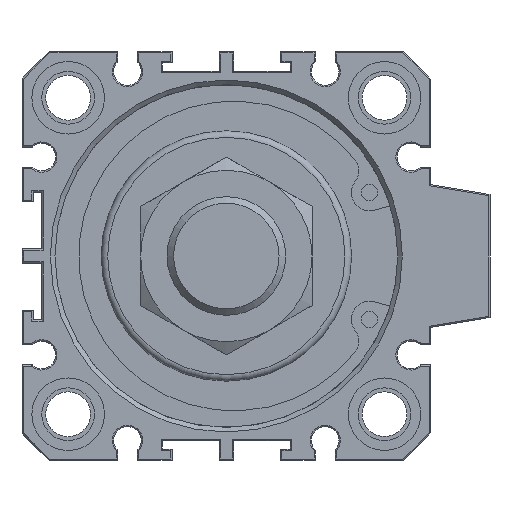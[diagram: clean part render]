
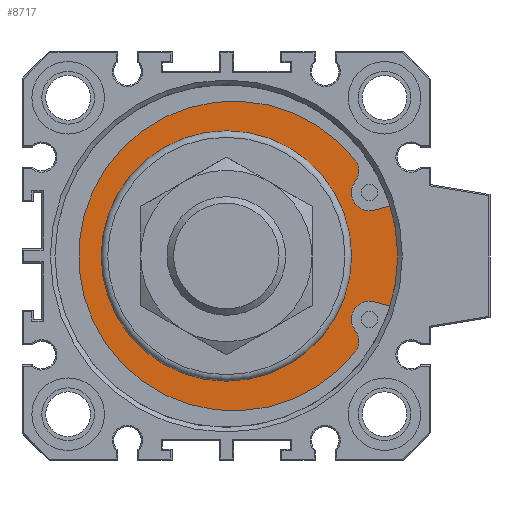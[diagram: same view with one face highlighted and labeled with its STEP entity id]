
A CAD part, front view. The second image highlights one B-rep face of the part: STEP entity #8717.
In plain terms, the highlighted planar face has unit normal (0, -1, 0).
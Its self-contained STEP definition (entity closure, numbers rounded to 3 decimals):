
#598=LINE('',#12477,#1184);
#599=LINE('',#12489,#1185);
#1184=VECTOR('',#10558,1000.);
#1185=VECTOR('',#10569,1000.);
#2073=ORIENTED_EDGE('',*,*,#3571,.T.);
#2074=ORIENTED_EDGE('',*,*,#3572,.T.);
#2075=ORIENTED_EDGE('',*,*,#3573,.T.);
#2076=ORIENTED_EDGE('',*,*,#3574,.T.);
#2077=ORIENTED_EDGE('',*,*,#3575,.T.);
#2078=ORIENTED_EDGE('',*,*,#3576,.T.);
#2079=ORIENTED_EDGE('',*,*,#3577,.T.);
#2080=ORIENTED_EDGE('',*,*,#3569,.F.);
#2081=ORIENTED_EDGE('',*,*,#3578,.T.);
#3569=EDGE_CURVE('',#4290,#4291,#4500,.T.);
#3571=EDGE_CURVE('',#4290,#4292,#598,.T.);
#3572=EDGE_CURVE('',#4292,#4293,#4501,.T.);
#3573=EDGE_CURVE('',#4293,#4294,#4502,.T.);
#3574=EDGE_CURVE('',#4294,#4295,#4503,.T.);
#3575=EDGE_CURVE('',#4295,#4296,#4504,.T.);
#3576=EDGE_CURVE('',#4296,#4297,#4505,.T.);
#3577=EDGE_CURVE('',#4297,#4291,#599,.T.);
#3578=EDGE_CURVE('',#4298,#4298,#4506,.T.);
#4290=VERTEX_POINT('',#12472);
#4291=VERTEX_POINT('',#12474);
#4292=VERTEX_POINT('',#12478);
#4293=VERTEX_POINT('',#12480);
#4294=VERTEX_POINT('',#12482);
#4295=VERTEX_POINT('',#12484);
#4296=VERTEX_POINT('',#12486);
#4297=VERTEX_POINT('',#12488);
#4298=VERTEX_POINT('',#12491);
#4500=CIRCLE('',#9274,27.5);
#4501=CIRCLE('',#9276,2.741);
#4502=CIRCLE('',#9277,2.741);
#4503=CIRCLE('',#9278,23.5);
#4504=CIRCLE('',#9279,2.74);
#4505=CIRCLE('',#9280,2.741);
#4506=CIRCLE('',#9281,19.);
#4748=EDGE_LOOP('',(#2073,#2074,#2075,#2076,#2077,#2078,#2079,#2080));
#4749=EDGE_LOOP('',(#2081));
#5226=FACE_BOUND('',#4748,.T.);
#5227=FACE_BOUND('',#4749,.T.);
#5592=PLANE('',#9275);
#8717=ADVANCED_FACE('',(#5226,#5227),#5592,.T.);
#9274=AXIS2_PLACEMENT_3D('',#12473,#10553,#10554);
#9275=AXIS2_PLACEMENT_3D('',#12476,#10556,#10557);
#9276=AXIS2_PLACEMENT_3D('',#12479,#10559,#10560);
#9277=AXIS2_PLACEMENT_3D('',#12481,#10561,#10562);
#9278=AXIS2_PLACEMENT_3D('',#12483,#10563,#10564);
#9279=AXIS2_PLACEMENT_3D('',#12485,#10565,#10566);
#9280=AXIS2_PLACEMENT_3D('',#12487,#10567,#10568);
#9281=AXIS2_PLACEMENT_3D('',#12490,#10570,#10571);
#10553=DIRECTION('',(0.,1.,0.));
#10554=DIRECTION('',(-1.,0.,0.));
#10556=DIRECTION('',(0.,-1.,0.));
#10557=DIRECTION('',(1.,0.,0.));
#10558=DIRECTION('',(-0.966,0.,-0.259));
#10559=DIRECTION('',(0.,1.,0.));
#10560=DIRECTION('',(1.,0.,0.));
#10561=DIRECTION('',(0.,-1.,0.));
#10562=DIRECTION('',(-1.,0.,0.));
#10563=DIRECTION('',(0.,-1.,0.));
#10564=DIRECTION('',(1.,0.,0.));
#10565=DIRECTION('',(0.,-1.,0.));
#10566=DIRECTION('',(-1.,0.,0.));
#10567=DIRECTION('',(0.,1.,0.));
#10568=DIRECTION('',(1.,0.,0.));
#10569=DIRECTION('',(0.966,0.,-0.259));
#10570=DIRECTION('',(0.,1.,0.));
#10571=DIRECTION('',(-1.,0.,0.));
#12472=CARTESIAN_POINT('',(26.308,4.2,8.009));
#12473=CARTESIAN_POINT('',(0.,4.2,0.));
#12474=CARTESIAN_POINT('',(26.308,4.2,-8.009));
#12476=CARTESIAN_POINT('',(0.,4.2,-27.5));
#12477=CARTESIAN_POINT('',(26.308,4.2,8.009));
#12478=CARTESIAN_POINT('',(22.414,4.2,6.965));
#12479=CARTESIAN_POINT('',(21.705,4.2,9.613));
#12480=CARTESIAN_POINT('',(19.645,4.2,11.421));
#12481=CARTESIAN_POINT('',(17.355,4.2,12.925));
#12482=CARTESIAN_POINT('',(19.628,4.2,14.455));
#12483=CARTESIAN_POINT('',(1.1,4.2,0.));
#12484=CARTESIAN_POINT('',(19.628,4.2,-14.455));
#12485=CARTESIAN_POINT('',(17.355,4.2,-12.925));
#12486=CARTESIAN_POINT('',(19.645,4.2,-11.421));
#12487=CARTESIAN_POINT('',(21.705,4.2,-9.613));
#12488=CARTESIAN_POINT('',(22.414,4.2,-6.965));
#12489=CARTESIAN_POINT('',(22.414,4.2,-6.965));
#12490=CARTESIAN_POINT('',(0.,4.2,0.));
#12491=CARTESIAN_POINT('',(-19.,4.2,0.));
